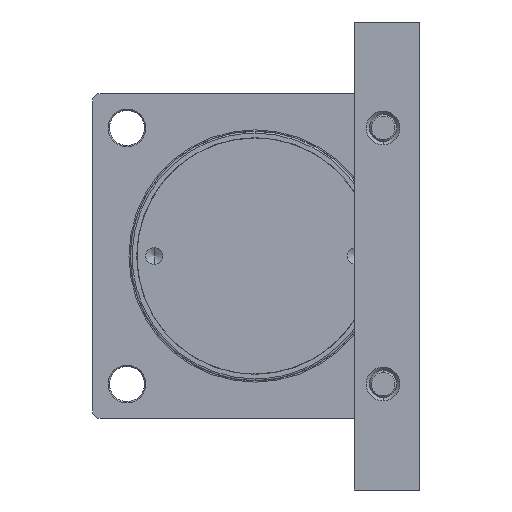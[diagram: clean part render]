
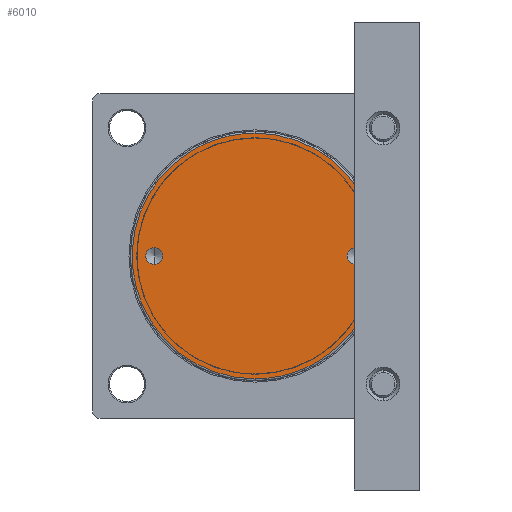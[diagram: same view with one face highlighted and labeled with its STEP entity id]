
A CAD part, left-side view. The second image highlights one B-rep face of the part: STEP entity #6010.
In plain terms, the highlighted planar face has unit normal (-1, 0, 0).
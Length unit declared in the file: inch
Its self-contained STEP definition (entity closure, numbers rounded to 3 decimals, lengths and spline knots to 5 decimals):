
#179 = AXIS2_PLACEMENT_3D ( 'NONE', #15633, #15629, #15599 ) ;
#526 = CIRCLE ( 'NONE', #179, 0.25591 ) ;
#1552 = EDGE_CURVE ( 'NONE', #9661, #21681, #1611, .T. ) ;
#1611 = CIRCLE ( 'NONE', #3819, 0.25591 ) ;
#1760 = CIRCLE ( 'NONE', #5772, 0.25591 ) ;
#1898 = CARTESIAN_POINT ( 'NONE',  ( -1.43701, 3.05118, 0.25591 ) ) ;
#3405 = ORIENTED_EDGE ( 'NONE', *, *, #16666, .F. ) ;
#3782 = VERTEX_POINT ( 'NONE', #6853 ) ;
#3819 = AXIS2_PLACEMENT_3D ( 'NONE', #14389, #14362, #14339 ) ;
#4103 = EDGE_LOOP ( 'NONE', ( #15475, #3405 ) ) ;
#4757 = ORIENTED_EDGE ( 'NONE', *, *, #15563, .F. ) ;
#4898 = CARTESIAN_POINT ( 'NONE',  ( -1.43701, 0., 3.72047 ) ) ;
#4951 = CARTESIAN_POINT ( 'NONE',  ( -1.43701, 0., -3.72047 ) ) ;
#5534 = EDGE_CURVE ( 'NONE', #22152, #21583, #13073, .T. ) ;
#5772 = AXIS2_PLACEMENT_3D ( 'NONE', #9528, #9504, #9486 ) ;
#6010 = ADVANCED_FACE ( 'NONE', ( #21321, #20656, #21368 ), #18338, .F. ) ;
#6728 = CARTESIAN_POINT ( 'NONE',  ( -1.43701, 7.44094, 3.72047 ) ) ;
#6853 = CARTESIAN_POINT ( 'NONE',  ( -1.43701, -3.05118, 0.25591 ) ) ;
#7655 = EDGE_CURVE ( 'NONE', #21681, #9661, #15667, .T. ) ;
#7880 = VERTEX_POINT ( 'NONE', #23121 ) ;
#7945 = CARTESIAN_POINT ( 'NONE',  ( -1.43701, 3.05118, -0.25591 ) ) ;
#8582 =( BOUNDED_CURVE ( )  B_SPLINE_CURVE ( 3, ( #20713, #23321, #22020, #10258 ),
 .UNSPECIFIED., .F., .F. ) 
 B_SPLINE_CURVE_WITH_KNOTS ( ( 4, 4 ),
 ( 0., 1. ),
 .UNSPECIFIED. ) 
 CURVE ( )  GEOMETRIC_REPRESENTATION_ITEM ( )  RATIONAL_B_SPLINE_CURVE ( ( 1., 0.333, 0.333, 1. ) ) 
 REPRESENTATION_ITEM ( '' )  );
#9486 = DIRECTION ( 'NONE',  ( 0., 0., 1. ) ) ;
#9504 = DIRECTION ( 'NONE',  ( -1., 0., 0. ) ) ;
#9528 = CARTESIAN_POINT ( 'NONE',  ( -1.43701, -3.05118, 0. ) ) ;
#9661 = VERTEX_POINT ( 'NONE', #7945 ) ;
#10258 = CARTESIAN_POINT ( 'NONE',  ( -1.43701, 0., -3.72047 ) ) ;
#10721 = CARTESIAN_POINT ( 'NONE',  ( -1.43701, 7.44094, -3.72047 ) ) ;
#11069 = ORIENTED_EDGE ( 'NONE', *, *, #5534, .F. ) ;
#11756 = CARTESIAN_POINT ( 'NONE',  ( -1.43701, 0., 3.72047 ) ) ;
#12044 = CARTESIAN_POINT ( 'NONE',  ( -1.43701, 0., -3.72047 ) ) ;
#12424 = EDGE_CURVE ( 'NONE', #3782, #7880, #526, .T. ) ;
#13073 =( BOUNDED_CURVE ( )  B_SPLINE_CURVE ( 3, ( #12044, #10721, #6728, #11756 ),
 .UNSPECIFIED., .F., .F. ) 
 B_SPLINE_CURVE_WITH_KNOTS ( ( 4, 4 ),
 ( 0., 1. ),
 .UNSPECIFIED. ) 
 CURVE ( )  GEOMETRIC_REPRESENTATION_ITEM ( )  RATIONAL_B_SPLINE_CURVE ( ( 1., 0.333, 0.333, 1. ) ) 
 REPRESENTATION_ITEM ( '' )  );
#13824 = ORIENTED_EDGE ( 'NONE', *, *, #7655, .F. ) ;
#14196 = AXIS2_PLACEMENT_3D ( 'NONE', #22195, #21994, #21266 ) ;
#14339 = DIRECTION ( 'NONE',  ( 0., 0., 1. ) ) ;
#14362 = DIRECTION ( 'NONE',  ( -1., 0., 0. ) ) ;
#14389 = CARTESIAN_POINT ( 'NONE',  ( -1.43701, 3.05118, 0. ) ) ;
#15475 = ORIENTED_EDGE ( 'NONE', *, *, #12424, .F. ) ;
#15563 = EDGE_CURVE ( 'NONE', #21583, #22152, #8582, .T. ) ;
#15599 = DIRECTION ( 'NONE',  ( 0., 0., 1. ) ) ;
#15629 = DIRECTION ( 'NONE',  ( -1., 0., 0. ) ) ;
#15633 = CARTESIAN_POINT ( 'NONE',  ( -1.43701, -3.05118, 0. ) ) ;
#15667 = CIRCLE ( 'NONE', #14196, 0.25591 ) ;
#16666 = EDGE_CURVE ( 'NONE', #7880, #3782, #1760, .T. ) ;
#17672 = AXIS2_PLACEMENT_3D ( 'NONE', #18647, #18292, #18291 ) ;
#18001 = EDGE_LOOP ( 'NONE', ( #11069, #4757 ) ) ;
#18291 = DIRECTION ( 'NONE',  ( 0., 0., -1. ) ) ;
#18292 = DIRECTION ( 'NONE',  ( 1., 0., 0. ) ) ;
#18338 = PLANE ( 'NONE',  #17672 ) ;
#18647 = CARTESIAN_POINT ( 'NONE',  ( -1.43701, 0., 0. ) ) ;
#20298 = EDGE_LOOP ( 'NONE', ( #13824, #23349 ) ) ;
#20656 = FACE_BOUND ( 'NONE', #4103, .T. ) ;
#20713 = CARTESIAN_POINT ( 'NONE',  ( -1.43701, 0., 3.72047 ) ) ;
#21266 = DIRECTION ( 'NONE',  ( 0., 0., 1. ) ) ;
#21321 = FACE_BOUND ( 'NONE', #20298, .T. ) ;
#21368 = FACE_OUTER_BOUND ( 'NONE', #18001, .T. ) ;
#21583 = VERTEX_POINT ( 'NONE', #4898 ) ;
#21681 = VERTEX_POINT ( 'NONE', #1898 ) ;
#21994 = DIRECTION ( 'NONE',  ( -1., 0., 0. ) ) ;
#22020 = CARTESIAN_POINT ( 'NONE',  ( -1.43701, -7.44094, -3.72047 ) ) ;
#22152 = VERTEX_POINT ( 'NONE', #4951 ) ;
#22195 = CARTESIAN_POINT ( 'NONE',  ( -1.43701, 3.05118, 0. ) ) ;
#23121 = CARTESIAN_POINT ( 'NONE',  ( -1.43701, -3.05118, -0.25591 ) ) ;
#23321 = CARTESIAN_POINT ( 'NONE',  ( -1.43701, -7.44094, 3.72047 ) ) ;
#23349 = ORIENTED_EDGE ( 'NONE', *, *, #1552, .F. ) ;
